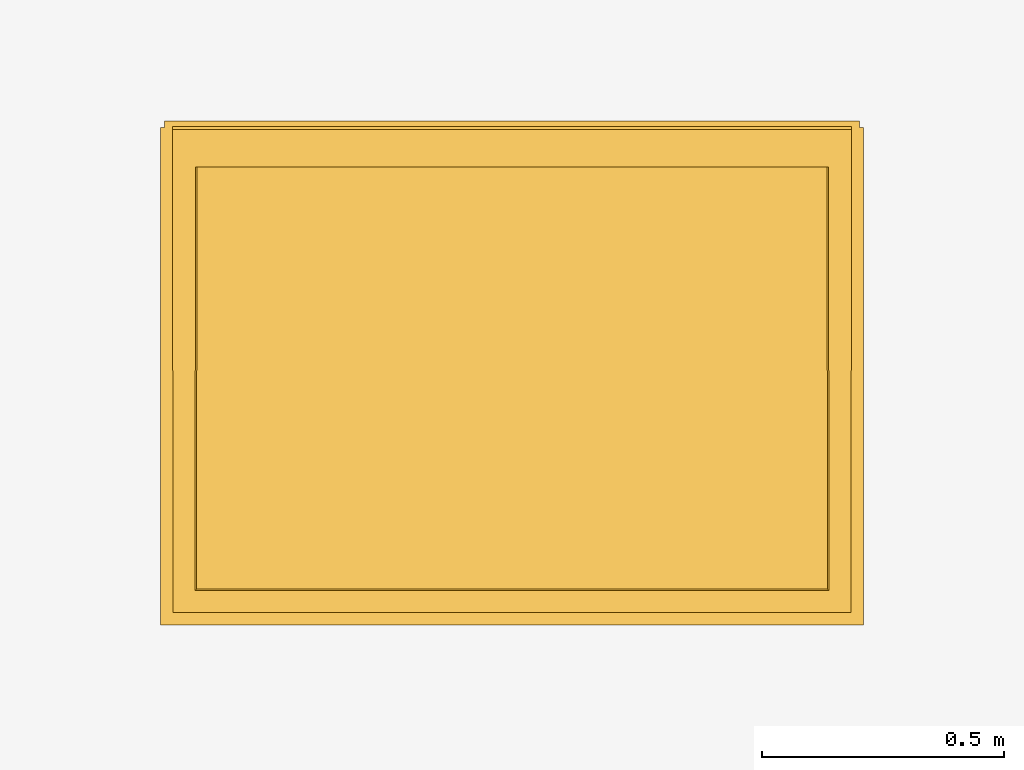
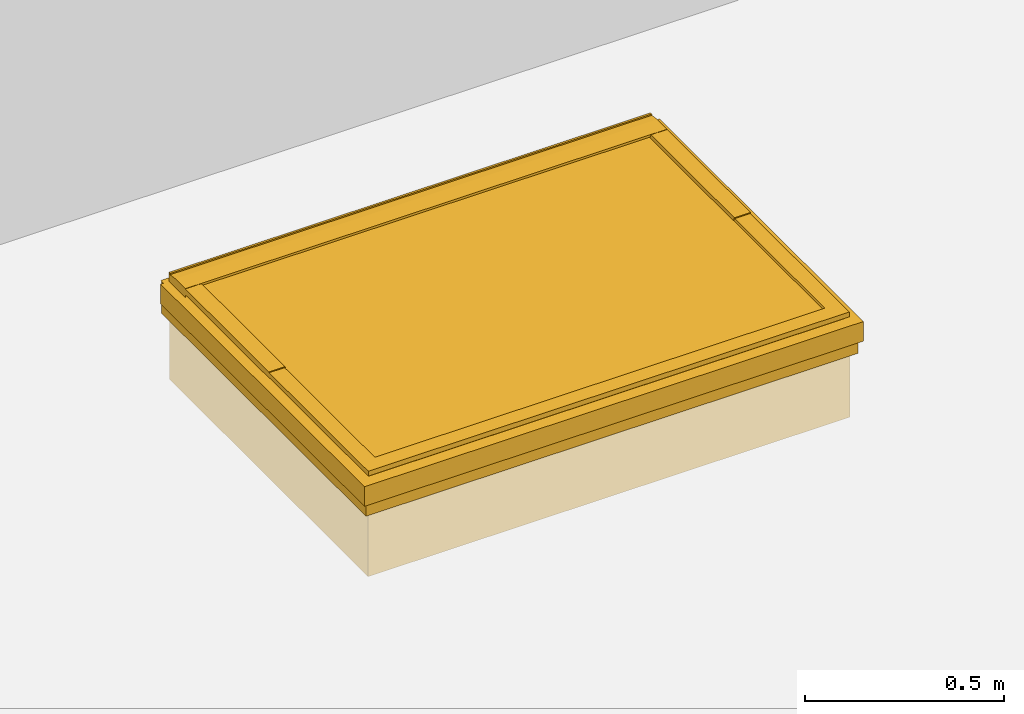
# One storey, part 2 of 2: 1 window.
"""IFC2X3 building model written with IfcOpenShell, lengths in metres."""

import ifcopenshell
import ifcopenshell.guid

model = None  # the IFC model being written
_history = None  # IfcOwnerHistory: only IFC2X3 demands one
_inside = {}  # id of a spatial element -> (the spatial element, [elements in it])
_under = {}  # id of a project, library or spatial element -> (it, [spatial elements below it])
_declared = {}  # id of a project -> (the project, [libraries it declares])
_typed = {}  # id of a type object -> (the type object, [elements of that type])
_made_of = {}  # id of a material, layer set ... -> (it, [elements and type objects made of it])


def new_model(schema):
    """Start an empty IFC model of exactly this schema.

    Asked for "IFC4X3", IfcOpenShell would pick the latest addendum, in which some entities
    have other attributes; the version numbers below select the first issue.
    IFC2X3 requires an IfcOwnerHistory on every rooted entity: one is made here for all.
    """
    global model, _history
    if schema == "IFC4X3":
        model = ifcopenshell.file(schema_version=(4, 3, 0, 0))
    else:
        model = ifcopenshell.file(schema=schema)
    _inside.clear()
    _under.clear()
    _declared.clear()
    _typed.clear()
    _made_of.clear()
    _history = None
    if model.schema == "IFC2X3":
        org = make("IfcOrganization", Name="unknown")
        user = make(
            "IfcPersonAndOrganization",
            ThePerson=make("IfcPerson", FamilyName="unknown"),
            TheOrganization=org,
        )
        app = make(
            "IfcApplication",
            ApplicationDeveloper=org,
            Version="unknown",
            ApplicationFullName="unknown",
            ApplicationIdentifier="unknown",
        )
        _history = make(
            "IfcOwnerHistory",
            OwningUser=user,
            OwningApplication=app,
            ChangeAction="ADDED",
            CreationDate=0,
        )
    return model


def make(cls, **values):
    """One entity of the class cls with the attributes given. An attribute that is None is left unset."""
    return model.create_entity(
        cls, **{name: value for name, value in values.items() if value is not None}
    )


def entity(cls, *values):
    """Any entity or typed value of the class cls, its attributes in the order of the schema. None: left unset."""
    e = model.create_entity(cls)
    for i, value in enumerate(values):
        if value is not None:
            e[i] = value
    return e


def rooted(cls, **values):
    """An entity with a GlobalId (a new one), such as an element, a storey or a relation."""
    return make(cls, GlobalId=ifcopenshell.guid.new(), OwnerHistory=_history, **values)


def si_unit(unit_type, name, prefix=None):
    """IfcSIUnit, for example si_unit("LENGTHUNIT", "METRE", prefix="MILLI")."""
    return make("IfcSIUnit", UnitType=unit_type, Prefix=prefix, Name=name)


def converted_unit(unit_type, name, factor, base, dimensions=None, offset=None):
    """IfcConversionBasedUnit, such as the inch: factor (a typed value) times the base unit."""
    return make(
        "IfcConversionBasedUnit"
        if offset is None
        else "IfcConversionBasedUnitWithOffset",
        ConversionOffset=offset,
        Dimensions=None
        if dimensions is None
        else entity("IfcDimensionalExponents", *dimensions),
        UnitType=unit_type,
        Name=name,
        ConversionFactor=make(
            "IfcMeasureWithUnit", ValueComponent=factor, UnitComponent=base
        ),
    )


def money_unit(currency):
    """IfcMonetaryUnit."""
    return make("IfcMonetaryUnit", Currency=currency)


def assignment(units):
    """IfcUnitAssignment: the units of a project."""
    return None if units is None else make("IfcUnitAssignment", Units=units)


def point(xyz):
    """IfcCartesianPoint."""
    return None if xyz is None else make("IfcCartesianPoint", Coordinates=xyz)


def direction(xyz):
    """IfcDirection."""
    return None if xyz is None else make("IfcDirection", DirectionRatios=xyz)


def frame(location, z_axis=None, x_axis=None):
    """IfcAxis2Placement3D, a coordinate frame: its origin and axes. An axis left out is left unset."""
    return make(
        "IfcAxis2Placement3D",
        Location=point(location),
        Axis=direction(z_axis),
        RefDirection=direction(x_axis),
    )


def origin_with_axes():
    """The frame at (0, 0, 0) with the z axis (0, 0, 1) and the x axis (1, 0, 0) written out."""
    return frame((0.0, 0.0, 0.0), z_axis=(0.0, 0.0, 1.0), x_axis=(1.0, 0.0, 0.0))


def place(relative_to, where):
    """IfcLocalPlacement: puts the frame where relative to a parent placement (None: the world)."""
    return make(
        "IfcLocalPlacement", PlacementRelTo=relative_to, RelativePlacement=where
    )


def context(
    kind, dimensions, precision=None, world=None, true_north=None, identifier=None
):
    """IfcGeometricRepresentationContext, for example the 3D "Model" context."""
    return make(
        "IfcGeometricRepresentationContext",
        ContextIdentifier=identifier,
        ContextType=kind,
        CoordinateSpaceDimension=dimensions,
        Precision=precision,
        WorldCoordinateSystem=world,
        TrueNorth=true_north,
    )


def subcontext(parent, identifier, kind, view, scale=None):
    """IfcGeometricRepresentationSubContext, for example "Body" below "Model"."""
    return make(
        "IfcGeometricRepresentationSubContext",
        ContextIdentifier=identifier,
        ContextType=kind,
        ParentContext=parent,
        TargetScale=scale,
        TargetView=view,
    )


def project(units=None, contexts=None):
    """IfcProject with its units and contexts."""
    return rooted(
        "IfcProject",
        Name="project",
        RepresentationContexts=contexts,
        UnitsInContext=assignment(units),
    )


def spatial(cls, under=None, at=None, **own):
    """A site, building, storey or space (cls), placed at a placement, below another one or the project."""
    s = rooted(cls, ObjectPlacement=at, **own)
    if under is not None:
        _under.setdefault(under.id(), (under, []))[1].append(s)
    return s


def faces_of(points, faces, orient=None, outer=None):
    """IfcFace entities. A face is a list of loops; a loop is a list of indices into points, from 0.

    orient and outer hold one flag for each loop. By default every Orientation is true, the
    first loop of a face is its IfcFaceOuterBound and the others are IfcFaceBound.
    """
    made = []
    for i, loops in enumerate(faces):
        bounds = []
        for j, loop in enumerate(loops):
            is_outer = j == 0 if outer is None else outer[i][j]
            bounds.append(
                make(
                    "IfcFaceOuterBound" if is_outer else "IfcFaceBound",
                    Bound=make("IfcPolyLoop", Polygon=[points[k] for k in loop]),
                    Orientation=True if orient is None else orient[i][j],
                )
            )
        made.append(make("IfcFace", Bounds=bounds))
    return made


def open_shell(faces, orient=None, outer=None):
    """The faces of one IfcOpenShell. surface_model builds it on its shared points."""
    return ("IfcOpenShell", faces, orient, outer)


def faceted_brep(points, faces, orient=None, outer=None, voids=None):
    """IfcFacetedBrep: a solid bounded by flat faces; with voids (closed shells), ...WithVoids."""
    shared = [point(p) for p in points]
    hull = make("IfcClosedShell", CfsFaces=faces_of(shared, faces, orient, outer))
    if voids is None:
        return make("IfcFacetedBrep", Outer=hull)
    return make(
        "IfcFacetedBrepWithVoids",
        Outer=hull,
        Voids=[
            make(cls, CfsFaces=faces_of(shared, fs, o, b)) for cls, fs, o, b in voids
        ],
    )


def surface_model(cls, points, shells):
    """IfcFaceBasedSurfaceModel or IfcShellBasedSurfaceModel (cls): surfaces that need not close."""
    shared = [point(p) for p in points]
    made = [make(c, CfsFaces=faces_of(shared, fs, o, b)) for c, fs, o, b in shells]
    if cls == "IfcFaceBasedSurfaceModel":
        return make(cls, FbsmFaces=made)
    return make(cls, SbsmBoundary=made)


def shape(context_of_items, identifier, shape_type, items):
    """IfcShapeRepresentation: the items that make up one representation, for example the "Body"."""
    return make(
        "IfcShapeRepresentation",
        ContextOfItems=context_of_items,
        RepresentationIdentifier=identifier,
        RepresentationType=shape_type,
        Items=items,
    )


def made_of(thing, what):
    """Note that an element or type object is made of a material, layer set ...; save() writes the relation."""
    if what is not None:
        _made_of.setdefault(what.id(), (what, []))[1].append(thing)
    return thing


def type_object(cls, material=None, **own):
    """A type object (cls), such as IfcWallType, which elements share."""
    return made_of(rooted(cls, **own), material)


def element(
    cls,
    number,
    at=None,
    inside=None,
    cuts=None,
    type_object=None,
    material=None,
    context=None,
    identifier="Body",
    shape_type=None,
    held_by="IfcProductDefinitionShape",
    body=None,
    shapes=None,
    **own,
):
    """One element of the class cls, such as IfcWall. Its Tag is "e" and its number.

    at: its placement. inside: the storey or other place that contains it. cuts: it is an
    opening in that element (IfcRelVoidsElement). A single representation is given by context,
    identifier, shape_type and body (its items); several are given by shapes. held_by: the class
    of the entity that holds the representations. save() writes the other relations.
    """
    e = rooted(cls, Tag="e%d" % number, ObjectPlacement=at, **own)
    if body is not None:
        shapes = [shape(context, identifier, shape_type, body)]
    if shapes is not None:
        e.Representation = make(held_by, Representations=shapes)
    if inside is not None:
        _inside.setdefault(inside.id(), (inside, []))[1].append(e)
    if cuts is not None:
        rooted(
            "IfcRelVoidsElement", RelatingBuildingElement=cuts, RelatedOpeningElement=e
        )
    if type_object is not None:
        _typed.setdefault(type_object.id(), (type_object, []))[1].append(e)
    return made_of(e, material)


def aggregate(whole, parts):
    """IfcRelAggregates: a whole, such as a stair, and the parts it consists of."""
    return rooted("IfcRelAggregates", RelatingObject=whole, RelatedObjects=parts)


def save(model, path):
    """Write the relations noted so far, then the file.

    IfcRelAggregates (storeys below a building ...), IfcRelContainedInSpatialStructure (elements
    in a storey), IfcRelDefinesByType, IfcRelAssociatesMaterial and IfcRelDeclares: one each for
    every whole, place, type object, material and project.
    """
    for whole, parts in _under.values():
        aggregate(whole, parts)
    for where, things in _inside.values():
        rooted(
            "IfcRelContainedInSpatialStructure",
            RelatedElements=things,
            RelatingStructure=where,
        )
    for kind, things in _typed.values():
        rooted("IfcRelDefinesByType", RelatedObjects=things, RelatingType=kind)
    for what, things in _made_of.values():
        rooted("IfcRelAssociatesMaterial", RelatedObjects=things, RelatingMaterial=what)
    for by, libraries in _declared.values():
        rooted("IfcRelDeclares", RelatingContext=by, RelatedDefinitions=libraries)
    model.write(path)


model = new_model("IFC2X3")

# Units and contexts
model_context = context("Model", 3, precision=1e-05, world=origin_with_axes(), true_north=direction((0.0, 1.0)))
body_context = subcontext(model_context, "Body", "Model", "MODEL_VIEW")
ifc_project = project(units=[si_unit("LENGTHUNIT", "METRE"), si_unit("AREAUNIT", "SQUARE_METRE"), si_unit("VOLUMEUNIT", "CUBIC_METRE"), converted_unit("PLANEANGLEUNIT", "DEGREE", entity("IfcPlaneAngleMeasure", 0.0174532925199), si_unit("PLANEANGLEUNIT", "RADIAN"), dimensions=[0, 0, 0, 0, 0, 0, 0]), si_unit("SOLIDANGLEUNIT", "STERADIAN"), money_unit("EUR"), converted_unit("TIMEUNIT", "Year", entity("IfcTimeMeasure", 31556926.0), si_unit("TIMEUNIT", "SECOND"), dimensions=[0, 0, 0, 0, 0, 0, 0]), si_unit("MASSUNIT", "GRAM"), si_unit("THERMODYNAMICTEMPERATUREUNIT", "DEGREE_CELSIUS"), si_unit("LUMINOUSINTENSITYUNIT", "LUMEN")], contexts=[model_context])

# Site, building, storey
site_placement = place(None, origin_with_axes())
site = spatial("IfcSite", under=ifc_project, at=site_placement, Name="Site", CompositionType="ELEMENT")
building_placement = place(site_placement, origin_with_axes())
building = spatial("IfcBuilding", under=site, at=building_placement, Name="Bâtiment", CompositionType="ELEMENT")
storey_placement = place(building_placement, frame((0.0, 0.0, 6.2), z_axis=(0.0, 0.0, 1.0), x_axis=(1.0, 0.0, 0.0)))
storey = spatial("IfcBuildingStorey", under=building, at=storey_placement, Name="PLAN DE MASSE-TOITURE", CompositionType="ELEMENT", Elevation=6.2)

# Window
window_style = type_object("IfcWindowStyle", Name="Fenêtre de toit pivot 10", ConstructionType="NOTDEFINED", OperationType="NOTDEFINED", ParameterTakesPrecedence=False, Sizeable=False)
window_placement = place(storey_placement, frame((49.1462015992, 14.3312486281, 0.18), z_axis=(0.0, 0.0, 1.0), x_axis=(1.0, 0.0, 0.0)))
element("IfcWindow", 1, at=window_placement, inside=storey, type_object=window_style, Name="Obj.-014", context=body_context, shape_type="SurfaceModel", body=[
    faceted_brep([(-0.675, 0.975, 0.05), (-0.69, 0.99, 0.05), (-0.69, 0.01, 0.05), (-0.675, 0.025, 0.05), (-0.675, 0.975, 0.0), (-0.715, 1.015, 0.0), (-0.715, 1.015, 0.1), (-0.69, 0.99, 0.1), (-0.69, 0.01, 0.1), (-0.715, -0.015, 0.1), (-0.715, -0.015, 0.0), (-0.675, 0.025, 0.0)], [[[0, 1, 2, 3]], [[0, 4, 5, 6, 7, 1]], [[1, 7, 8, 2]], [[3, 2, 8, 9, 10, 11]], [[4, 0, 3, 11]], [[5, 4, 11, 10]], [[6, 5, 10, 9]], [[7, 6, 9, 8]]]),
    faceted_brep([(0.675, 0.975, 0.05), (0.675, 0.025, 0.05), (0.69, 0.01, 0.05), (0.69, 0.99, 0.05), (0.675, 0.975, 0.0), (0.675, 0.025, 0.0), (0.715, -0.015, 0.0), (0.715, -0.015, 0.1), (0.69, 0.01, 0.1), (0.69, 0.99, 0.1), (0.715, 1.015, 0.1), (0.715, 1.015, 0.0)], [[[0, 1, 2, 3]], [[4, 5, 1, 0]], [[1, 5, 6, 7, 8, 2]], [[3, 2, 8, 9]], [[0, 3, 9, 10, 11, 4]], [[11, 6, 5, 4]], [[10, 7, 6, 11]], [[9, 8, 7, 10]]]),
    faceted_brep([(-0.675, 0.025, 0.05), (-0.69, 0.01, 0.05), (0.69, 0.01, 0.05), (0.675, 0.025, 0.05), (-0.675, 0.025, 0.0), (-0.715, -0.015, 0.0), (-0.715, -0.015, 0.1), (-0.69, 0.01, 0.1), (0.69, 0.01, 0.1), (0.715, -0.015, 0.1), (0.715, -0.015, 0.0), (0.675, 0.025, 0.0)], [[[0, 1, 2, 3]], [[0, 4, 5, 6, 7, 1]], [[1, 7, 8, 2]], [[3, 2, 8, 9, 10, 11]], [[4, 0, 3, 11]], [[5, 4, 11, 10]], [[6, 5, 10, 9]], [[7, 6, 9, 8]]]),
    faceted_brep([(-0.675, 0.975, 0.05), (0.675, 0.975, 0.05), (0.665, 0.965, 0.05), (-0.665, 0.965, 0.05), (-0.675, 0.975, 0.0), (0.675, 0.975, 0.0), (0.715, 1.015, 0.0), (0.715, 1.015, 0.1), (0.69, 0.99, 0.1), (0.69, 0.99, 0.08), (0.665, 0.965, 0.08), (-0.665, 0.965, 0.08), (-0.69, 0.99, 0.08), (-0.69, 0.99, 0.1), (-0.715, 1.015, 0.1), (-0.715, 1.015, 0.0)], [[[0, 1, 2, 3]], [[4, 5, 1, 0]], [[1, 5, 6, 7, 8, 9, 10, 2]], [[3, 2, 10, 11]], [[0, 3, 11, 12, 13, 14, 15, 4]], [[15, 6, 5, 4]], [[14, 7, 6, 15]], [[13, 8, 7, 14]], [[12, 9, 8, 13]], [[11, 10, 9, 12]]]),
    surface_model("IfcShellBasedSurfaceModel", [(-0.725, 1.0015, 0.04), (-0.725, 1.0015, 0.1002), (-0.725, -0.025, 0.1002), (-0.725, -0.025, 0.04), (-0.69, 1.0015, 0.1002), (-0.69, 0.01, 0.1002), (-0.69, 1.0015, 0.112), (-0.69, 0.01, 0.112)], [open_shell([[[0, 1, 2, 3]], [[1, 4, 5, 2]], [[4, 6, 7, 5]]])]),
    surface_model("IfcShellBasedSurfaceModel", [(0.725, 1.0015, 0.04), (0.725, -0.025, 0.04), (0.725, -0.025, 0.1002), (0.725, 1.0015, 0.1002), (0.69, 0.01, 0.1002), (0.69, 1.0015, 0.1002), (0.69, 0.01, 0.112), (0.69, 1.0015, 0.112)], [open_shell([[[0, 1, 2, 3]], [[3, 2, 4, 5]], [[5, 4, 6, 7]]])]),
    surface_model("IfcShellBasedSurfaceModel", [(-0.725, -0.025, 0.04), (-0.725, -0.025, 0.1002), (0.725, -0.025, 0.1002), (0.725, -0.025, 0.04), (-0.725, -0.025, 0.1002), (-0.69, 0.01, 0.1002), (0.69, 0.01, 0.1002), (-0.69, 0.01, 0.112), (0.69, 0.01, 0.112)], [open_shell([[[0, 1, 2, 3]], [[1, 4, 5, 6, 2]], [[7, 8, 6, 5]]])]),
    surface_model("IfcShellBasedSurfaceModel", [(-0.7, 1.015, 0.1003), (-0.7, 1.003, 0.1003), (0.7, 1.003, 0.1003), (0.7, 1.015, 0.1003), (-0.7, 1.003, 0.127), (0.7, 1.003, 0.127), (-0.7, 0.997, 0.127), (0.7, 0.997, 0.127), (-0.7, 0.997, 0.123), (0.7, 0.997, 0.123), (-0.7, 0.97, 0.127), (0.7, 0.97, 0.127), (-0.7, 0.92, 0.127), (0.7, 0.92, 0.127), (-0.7, 0.92, 0.12), (0.7, 0.92, 0.12)], [open_shell([[[0, 1, 2, 3]], [[1, 4, 5, 2]], [[4, 6, 7, 5]], [[6, 8, 9, 7]], [[8, 10, 11, 9]], [[10, 12, 13, 11]], [[12, 14, 15, 13]]])]),
    surface_model("IfcShellBasedSurfaceModel", [(-0.7, 1.003, 0.1003), (-0.7, 0.92, 0.1003), (-0.7, 0.92, 0.127), (-0.7, 0.97, 0.127), (-0.7, 0.997, 0.123), (-0.7, 0.997, 0.127), (-0.7, 1.003, 0.127)], [open_shell([[[0, 1, 2, 3, 4, 5, 6]]])]),
    surface_model("IfcShellBasedSurfaceModel", [(-0.7, 1.003, 0.1003), (-0.7, 1.015, 0.1003), (-0.717, 1.015, 0.1003), (-0.717, 0.92, 0.1003), (-0.7, 0.92, 0.1003)], [open_shell([[[0, 1, 2, 3, 4]]])]),
    surface_model("IfcShellBasedSurfaceModel", [(0.7, 1.003, 0.1003), (0.7, 1.003, 0.127), (0.7, 0.997, 0.127), (0.7, 0.997, 0.123), (0.7, 0.97, 0.127), (0.7, 0.92, 0.127), (0.7, 0.92, 0.1003)], [open_shell([[[0, 1, 2, 3, 4, 5, 6]]])]),
    surface_model("IfcShellBasedSurfaceModel", [(0.7, 1.003, 0.1003), (0.7, 0.92, 0.1003), (0.717, 0.92, 0.1003), (0.717, 1.015, 0.1003), (0.7, 1.015, 0.1003)], [open_shell([[[0, 1, 2, 3, 4]]])]),
    surface_model("IfcShellBasedSurfaceModel", [(-0.7, 0.92, 0.108), (-0.7, 0.92, 0.126), (-0.7, 0.5, 0.126), (-0.7, 0.5, 0.108), (-0.653, 0.92, 0.126), (-0.653, 0.5, 0.126), (-0.65, 0.92, 0.118), (-0.65, 0.5, 0.118)], [open_shell([[[0, 1, 2, 3]], [[1, 4, 5, 2]], [[4, 6, 7, 5]]])]),
    surface_model("IfcShellBasedSurfaceModel", [(0.7, 0.92, 0.108), (0.7, 0.5, 0.108), (0.7, 0.5, 0.126), (0.7, 0.92, 0.126), (0.653, 0.5, 0.126), (0.653, 0.92, 0.126), (0.65, 0.5, 0.118), (0.65, 0.92, 0.118)], [open_shell([[[0, 1, 2, 3]], [[3, 2, 4, 5]], [[5, 4, 6, 7]]])]),
    faceted_brep([(-0.638, 0.051, 0.05), (-0.638, 0.919, 0.05), (-0.638, 0.919, 0.1), (-0.638, 0.051, 0.1), (-0.674, 0.015, 0.05), (-0.674, 0.955, 0.05), (-0.674, 0.955, 0.113), (-0.654, 0.935, 0.113), (-0.654, 0.935, 0.1), (-0.654, 0.035, 0.1), (-0.654, 0.035, 0.113), (-0.674, 0.015, 0.113)], [[[0, 1, 2, 3]], [[4, 5, 1, 0]], [[1, 5, 6, 7, 8, 2]], [[3, 2, 8, 9]], [[0, 3, 9, 10, 11, 4]], [[11, 6, 5, 4]], [[10, 7, 6, 11]], [[9, 8, 7, 10]]]),
    faceted_brep([(0.638, 0.051, 0.05), (0.638, 0.051, 0.1), (0.638, 0.919, 0.1), (0.638, 0.919, 0.05), (0.674, 0.015, 0.05), (0.674, 0.015, 0.113), (0.654, 0.035, 0.113), (0.654, 0.035, 0.1), (0.654, 0.935, 0.1), (0.654, 0.935, 0.113), (0.674, 0.955, 0.113), (0.674, 0.955, 0.05)], [[[0, 1, 2, 3]], [[0, 4, 5, 6, 7, 1]], [[1, 7, 8, 2]], [[3, 2, 8, 9, 10, 11]], [[4, 0, 3, 11]], [[5, 4, 11, 10]], [[6, 5, 10, 9]], [[7, 6, 9, 8]]]),
    faceted_brep([(0.638, 0.919, 0.05), (0.638, 0.919, 0.1), (-0.638, 0.919, 0.1), (-0.638, 0.919, 0.05), (0.674, 0.955, 0.05), (0.674, 0.955, 0.113), (0.654, 0.935, 0.113), (0.654, 0.935, 0.1), (-0.654, 0.935, 0.1), (-0.654, 0.935, 0.113), (-0.674, 0.955, 0.113), (-0.674, 0.955, 0.05)], [[[0, 1, 2, 3]], [[0, 4, 5, 6, 7, 1]], [[1, 7, 8, 2]], [[3, 2, 8, 9, 10, 11]], [[4, 0, 3, 11]], [[5, 4, 11, 10]], [[6, 5, 10, 9]], [[7, 6, 9, 8]]]),
    faceted_brep([(0.674, 0.97, 0.04), (0.674, 0.94, 0.04), (-0.674, 0.94, 0.04), (-0.674, 0.97, 0.04), (0.674, 0.97, 0.05), (0.674, 0.94, 0.05), (-0.674, 0.94, 0.05), (-0.674, 0.97, 0.05)], [[[0, 1, 2, 3]], [[0, 4, 5, 1]], [[1, 5, 6, 2]], [[3, 2, 6, 7]], [[4, 0, 3, 7]], [[5, 4, 7, 6]]]),
    faceted_brep([(-0.638, 0.051, 0.05), (-0.638, 0.051, 0.1), (0.638, 0.051, 0.1), (0.638, 0.051, 0.05), (-0.674, 0.015, 0.05), (-0.674, 0.015, 0.113), (-0.654, 0.035, 0.113), (-0.654, 0.035, 0.1), (0.654, 0.035, 0.1), (0.654, 0.035, 0.113), (0.674, 0.015, 0.113), (0.674, 0.015, 0.05)], [[[0, 1, 2, 3]], [[0, 4, 5, 6, 7, 1]], [[1, 7, 8, 2]], [[3, 2, 8, 9, 10, 11]], [[4, 0, 3, 11]], [[5, 4, 11, 10]], [[6, 5, 10, 9]], [[7, 6, 9, 8]]]),
    surface_model("IfcShellBasedSurfaceModel", [(-0.699, 0.5, 0.108), (-0.699, 0.5, 0.123), (-0.699, 0.001, 0.123), (-0.699, 0.001, 0.108), (-0.654, 0.5, 0.123), (-0.654, 0.046, 0.123), (-0.651, 0.5, 0.118), (-0.651, 0.049, 0.118)], [open_shell([[[0, 1, 2, 3]], [[1, 4, 5, 2]], [[4, 6, 7, 5]]])]),
    surface_model("IfcShellBasedSurfaceModel", [(0.699, 0.5, 0.108), (0.699, 0.001, 0.108), (0.699, 0.001, 0.123), (0.699, 0.5, 0.123), (0.654, 0.046, 0.123), (0.654, 0.5, 0.123), (0.651, 0.049, 0.118), (0.651, 0.5, 0.118)], [open_shell([[[0, 1, 2, 3]], [[3, 2, 4, 5]], [[5, 4, 6, 7]]])]),
    surface_model("IfcShellBasedSurfaceModel", [(-0.699, 0.001, 0.123), (0.699, 0.001, 0.123), (0.699, 0.001, 0.108), (-0.699, 0.001, 0.108), (-0.654, 0.046, 0.123), (0.654, 0.046, 0.123), (-0.651, 0.049, 0.118), (0.651, 0.049, 0.118)], [open_shell([[[0, 1, 2, 3]], [[4, 5, 1, 0]], [[6, 7, 5, 4]]])]),
    faceted_brep([(0.654, 0.037, 0.1), (0.654, 0.935, 0.1), (0.654, 0.935, 0.118), (0.654, 0.037, 0.118), (-0.654, 0.037, 0.1), (-0.654, 0.935, 0.1), (-0.654, 0.935, 0.118), (-0.654, 0.037, 0.118)], [[[0, 1, 2, 3]], [[0, 4, 5, 1]], [[1, 5, 6, 2]], [[3, 2, 6, 7]], [[4, 0, 3, 7]], [[5, 4, 7, 6]]]),
    faceted_brep([(-0.688, 0.0, -0.2), (-0.688, 0.012, -0.2), (0.688, 0.012, -0.2), (0.688, 0.0, -0.2), (-0.688, 0.0, 0.0), (-0.688, 0.012, 0.0), (0.688, 0.012, 0.0), (0.688, 0.0, 0.0)], [[[0, 1, 2, 3]], [[0, 4, 5, 1]], [[1, 5, 6, 2]], [[3, 2, 6, 7]], [[4, 0, 3, 7]], [[5, 4, 7, 6]]]),
    faceted_brep([(-0.688, 1.0, 0.0), (-0.688, 0.988, 0.0), (0.688, 0.988, 0.0), (0.688, 1.0, 0.0), (-0.688, 1.0, -0.2), (-0.688, 0.988, -0.2), (0.688, 0.988, -0.2), (0.688, 1.0, -0.2)], [[[0, 1, 2, 3]], [[0, 4, 5, 1]], [[1, 5, 6, 2]], [[3, 2, 6, 7]], [[4, 0, 3, 7]], [[5, 4, 7, 6]]]),
    faceted_brep([(-0.7, 0.0, -0.2), (-0.7, 1.0, -0.2), (-0.688, 1.0, -0.2), (-0.688, 0.0, -0.2), (-0.7, 0.0, 0.0), (-0.7, 1.0, 0.0), (-0.688, 1.0, 0.0), (-0.688, 0.0, 0.0)], [[[0, 1, 2, 3]], [[0, 4, 5, 1]], [[1, 5, 6, 2]], [[3, 2, 6, 7]], [[4, 0, 3, 7]], [[5, 4, 7, 6]]]),
    faceted_brep([(0.688, 0.0, -0.2), (0.688, 1.0, -0.2), (0.7, 1.0, -0.2), (0.7, 0.0, -0.2), (0.688, 0.0, 0.0), (0.688, 1.0, 0.0), (0.7, 1.0, 0.0), (0.7, 0.0, 0.0)], [[[0, 1, 2, 3]], [[0, 4, 5, 1]], [[1, 5, 6, 2]], [[3, 2, 6, 7]], [[4, 0, 3, 7]], [[5, 4, 7, 6]]]),
])

save(model, "model.ifc")
